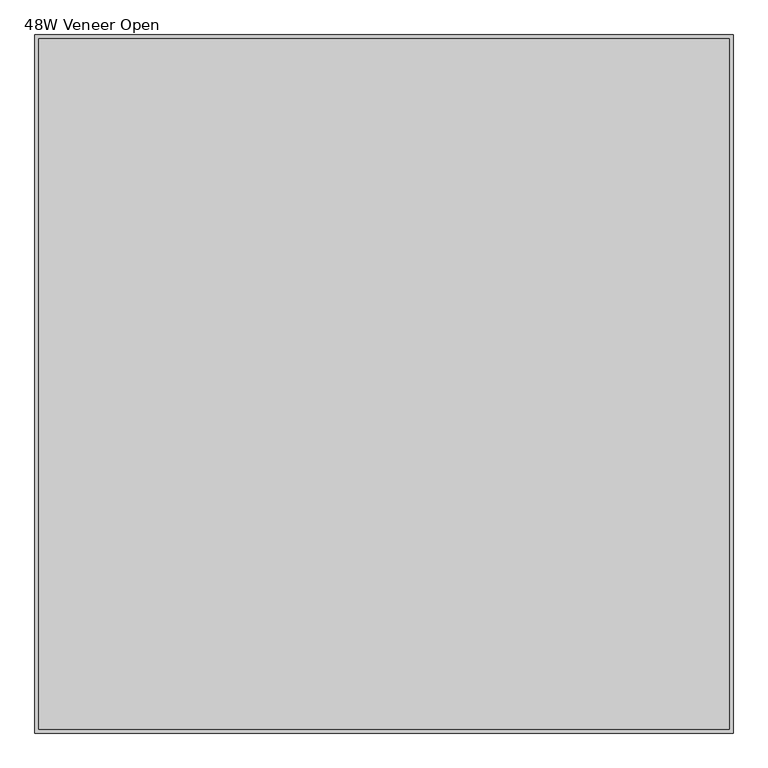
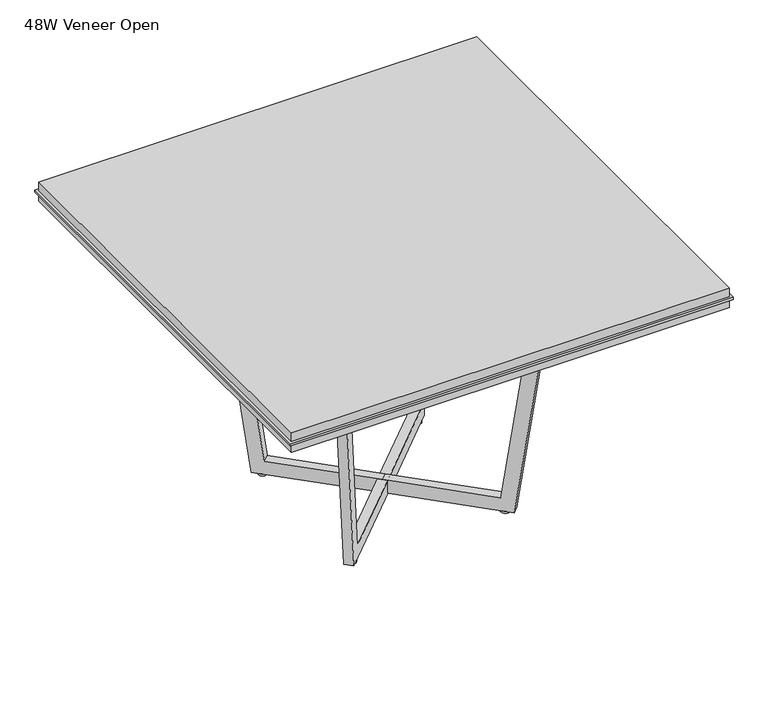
"""IFC4 building model written with IfcOpenShell, lengths in millimetres: furniture geometry, Knoll_Datesweiser_Tables_Meeting_Highline_Square : 48W Veneer Open."""

from ifc_helpers import new_model, si_unit, point, frame, frame_2d, origin, origin_with_axes, place, context, project, spatial, polyline, circle_curve, trimmed, segment, composite_curve, outline, extrude, source, transform, mapped, element, save


def furniture_48w_veneer_open_9b99f7e2(model_context):
    return source(origin(), model_context, "Body", "SweptSolid", [
        extrude(outline(polyline([(609.6, 609.6), (609.6, -609.6), (-609.6, -609.6), (-609.6, 609.6), (609.6, 609.6)])), frame((0.0, 0.0, 698.5), z_axis=(0.0, 0.0, 1.0), x_axis=(1.0, 0.0, 0.0)), (0.0, 0.0, 1.0), 25.4),
        extrude(outline(polyline([(609.6, 609.6), (609.6, -609.6), (-609.6, -609.6), (-609.6, 609.6), (609.6, 609.6)])), frame((0.0, 0.0, 730.25), z_axis=(0.0, 0.0, 1.0), x_axis=(1.0, 0.0, 0.0)), (0.0, 0.0, 1.0), 25.4),
        extrude(outline(polyline([(615.95, 615.95), (615.95, -615.95), (-615.95, -615.95), (-615.95, 615.95), (615.95, 615.95)])), frame((0.0, 0.0, 723.9), z_axis=(0.0, 0.0, 1.0), x_axis=(1.0, 0.0, 0.0)), (0.0, 0.0, 1.0), 6.35),
        extrude(outline(composite_curve([segment(trimmed(circle_curve(frame_2d((-214.2640473, -214.2640473)), 12.7), [point((-201.5640473, -214.2640473))], [point((-226.9640473, -214.2640473))], False, "CARTESIAN"), True, "CONTINUOUS"), segment(trimmed(circle_curve(frame_2d((-214.2640473, -214.2640473)), 12.7), [point((-226.9640473, -214.2640473))], [point((-201.5640473, -214.2640473))], False, "CARTESIAN"), True, "CONTINUOUS")], self_intersect=False)), origin_with_axes(), (0.0, 0.0, 1.0), 5.9867797),
        extrude(outline(composite_curve([segment(trimmed(circle_curve(frame_2d((-214.2640473, 214.2640473)), 12.7), [point((-201.5640473, 214.2640473))], [point((-226.9640473, 214.2640473))], False, "CARTESIAN"), True, "CONTINUOUS"), segment(trimmed(circle_curve(frame_2d((-214.2640473, 214.2640473)), 12.7), [point((-226.9640473, 214.2640473))], [point((-201.5640473, 214.2640473))], False, "CARTESIAN"), True, "CONTINUOUS")], self_intersect=False)), origin_with_axes(), (0.0, 0.0, 1.0), 5.9867797),
        extrude(outline(composite_curve([segment(trimmed(circle_curve(frame_2d((214.2640473, -214.2640473)), 12.7), [point((226.9640473, -214.2640473))], [point((201.5640473, -214.2640473))], False, "CARTESIAN"), True, "CONTINUOUS"), segment(trimmed(circle_curve(frame_2d((214.2640473, -214.2640473)), 12.7), [point((201.5640473, -214.2640473))], [point((226.9640473, -214.2640473))], False, "CARTESIAN"), True, "CONTINUOUS")], self_intersect=False)), origin_with_axes(), (0.0, 0.0, 1.0), 5.9867797),
        extrude(outline(composite_curve([segment(trimmed(circle_curve(frame_2d((214.2640473, 214.2640473)), 12.7), [point((226.9640473, 214.2640473))], [point((201.5640473, 214.2640473))], False, "CARTESIAN"), True, "CONTINUOUS"), segment(trimmed(circle_curve(frame_2d((214.2640473, 214.2640473)), 12.7), [point((201.5640473, 214.2640473))], [point((226.9640473, 214.2640473))], False, "CARTESIAN"), True, "CONTINUOUS")], self_intersect=False)), origin_with_axes(), (0.0, 0.0, 1.0), 5.9867797),
        extrude(outline(polyline([(-328.4154116, 0.0), (0.0, 0.0), (96.4293466, -692.6387226), (57.9549435, -692.5888898), (-33.1691487, -38.0570712), (-328.4642085, -37.6745992), (-623.7592682, -37.2921272), (-716.578577, -691.5856987), (-755.0529801, -691.5358658), (-656.8297213, 0.8507388), (-328.4154116, 0.0)])), frame((223.2443137, -241.2048259, 5.9867797), z_axis=(0.7071067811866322, 0.7071067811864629, 0.0), x_axis=(0.7071061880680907, -0.70710618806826, -0.001295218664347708)), (0.0, 0.0, 1.0), 25.4),
        extrude(outline(polyline([(328.4154116, 0.0), (656.8297213, 0.8507388), (755.0529801, -691.5358658), (716.578577, -691.5856987), (623.7592682, -37.2921272), (328.4642085, -37.6745992), (33.1691487, -38.0570712), (-57.9549435, -692.5888898), (-96.4293466, -692.6387226), (0.0, 0.0), (328.4154116, 0.0)])), frame((-223.2443137, -241.2048259, 5.9867797), z_axis=(-0.707106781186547, 0.7071067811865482, 0.0), x_axis=(0.7071061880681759, 0.7071061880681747, 0.001295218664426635)), (0.0, 0.0, 1.0), 25.4),
    ])


if __name__ == "__main__":
    model = new_model("IFC4")
    model_context = context("Model", 3, world=origin())
    ifc_project = project(units=[si_unit("LENGTHUNIT", "METRE", prefix="MILLI")], contexts=[model_context])
    site = spatial("IfcSite", under=ifc_project)
    building = spatial("IfcBuilding", under=site)
    placement = place(None, origin())
    furniture_48w_veneer_open_shape = furniture_48w_veneer_open_9b99f7e2(model_context)
    element("IfcFurniture", 1, ObjectType="Knoll_Datesweiser_Tables_Meeting_Highline_Square : 48W Veneer Open", at=placement, inside=building, context=model_context, shape_type="MappedRepresentation", body=[
        mapped(furniture_48w_veneer_open_shape, transform((0.0, 0.0, 0.0), x_axis=(1.0, 0.0, 0.0), y_axis=(0.0, 1.0, 0.0), z_axis=(0.0, 0.0, 1.0))),
    ])
    save(model, "model.ifc")
